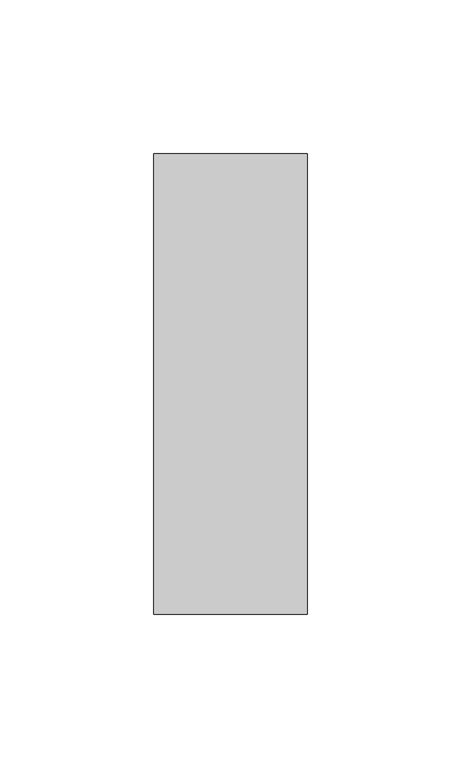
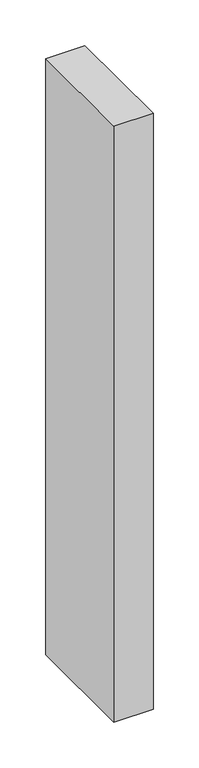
"""IFC4 building model written with IfcOpenShell, lengths in millimetres: member geometry, Прямоугольный импост : 50х150мм."""

from ifc_helpers import new_model, si_unit, frame, origin, place, context, project, spatial, polyline, outline, extrude, source, transform, mapped, element, save


def member_474f6dcf(model_context):
    return source(origin(), model_context, "Body", "SweptSolid", [
        extrude(outline(polyline([(25.0, 75.0), (25.0, -75.0), (-25.0, -75.0), (-25.0, 75.0), (25.0, 75.0)])), frame((0.0, 0.0, -798.8948055), z_axis=(0.0, 0.0, 1.0), x_axis=(1.0, 0.0, 0.0)), (0.0, 0.0, 1.0), 798.8948055),
    ])


if __name__ == "__main__":
    model = new_model("IFC4")
    model_context = context("Model", 3, world=origin())
    ifc_project = project(units=[si_unit("LENGTHUNIT", "METRE", prefix="MILLI")], contexts=[model_context])
    site = spatial("IfcSite", under=ifc_project)
    building = spatial("IfcBuilding", under=site)
    placement = place(None, origin())
    member_shape = member_474f6dcf(model_context)
    element("IfcMember", 1, ObjectType="Прямоугольный импост : 50х150мм", at=placement, inside=building, context=model_context, shape_type="MappedRepresentation", body=[
        mapped(member_shape, transform((0.0, 0.0, 0.0), x_axis=(1.0, 0.0, 0.0), y_axis=(0.0, 1.0, 0.0), z_axis=(0.0, 0.0, 1.0))),
    ])
    save(model, "model.ifc")
